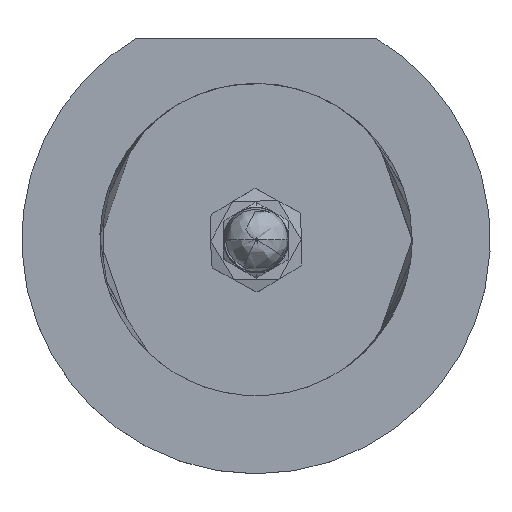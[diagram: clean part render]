
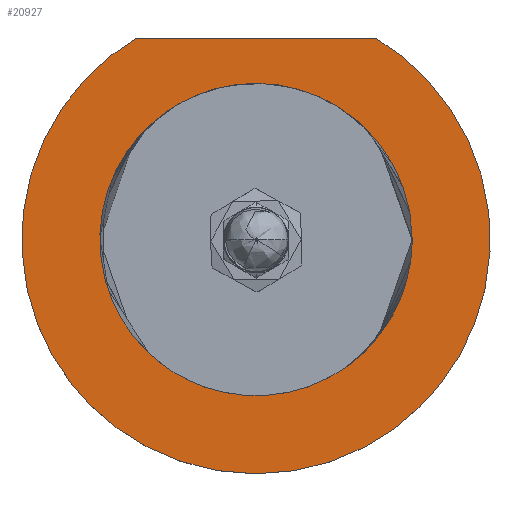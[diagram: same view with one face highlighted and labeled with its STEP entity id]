
A CAD part, top view. The second image highlights one B-rep face of the part: STEP entity #20927.
In plain terms, the highlighted free-form (B-spline) face has degree [1, 1] with [2, 2] control points.
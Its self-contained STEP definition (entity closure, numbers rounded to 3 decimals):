
#20372=CARTESIAN_POINT('',(14.56,24.5,0.));
#20373=VERTEX_POINT('',#20372);
#20380=CARTESIAN_POINT('',(-14.56,24.5,0.));
#20381=VERTEX_POINT('',#20380);
#20387=CARTESIAN_POINT('',(-14.56,24.5,0.));
#20388=CARTESIAN_POINT('',(14.56,24.5,0.));
#20389=B_SPLINE_CURVE_WITH_KNOTS('',1,(#20387,#20388),.POLYLINE_FORM.,.F.,.U.,(2,2),(0.096,0.904),.UNSPECIFIED.);
#20390=EDGE_CURVE('',#20381,#20373,#20389,.T.);
#20415=CARTESIAN_POINT('',(14.56,24.5,0.));
#20416=CARTESIAN_POINT('',(43.51,7.295,0.));
#20417=CARTESIAN_POINT('',(21.755,-18.411,0.));
#20418=CARTESIAN_POINT('',(0.,-44.117,0.));
#20419=CARTESIAN_POINT('',(-21.755,-18.411,0.));
#20420=CARTESIAN_POINT('',(-43.51,7.295,0.));
#20421=CARTESIAN_POINT('',(-14.56,24.5,0.));
#20422=(BOUNDED_CURVE()B_SPLINE_CURVE(2,(#20415,#20416,#20417,#20418,#20419,#20420,#20421),.CIRCULAR_ARC.,.F.,.U.)B_SPLINE_CURVE_WITH_KNOTS((3,2,2,3),(0.,0.333,0.667,1.),.UNSPECIFIED.)CURVE()GEOMETRIC_REPRESENTATION_ITEM()RATIONAL_B_SPLINE_CURVE((1.,0.646,1.,0.646,1.,0.646,1.))REPRESENTATION_ITEM(''));
#20423=EDGE_CURVE('',#20373,#20381,#20422,.T.);
#20445=CARTESIAN_POINT('',(19.,0.,0.));
#20446=VERTEX_POINT('',#20445);
#20447=CARTESIAN_POINT('',(19.,0.,0.));
#20448=CARTESIAN_POINT('',(19.,32.909,0.));
#20449=CARTESIAN_POINT('',(-9.5,16.454,0.));
#20450=CARTESIAN_POINT('',(-38.,0.,0.));
#20451=CARTESIAN_POINT('',(-9.5,-16.454,0.));
#20452=CARTESIAN_POINT('',(19.,-32.909,0.));
#20453=CARTESIAN_POINT('',(19.,0.,0.));
#20454=(BOUNDED_CURVE()B_SPLINE_CURVE(2,(#20447,#20448,#20449,#20450,#20451,#20452,#20453),.CIRCULAR_ARC.,.T.,.U.)B_SPLINE_CURVE_WITH_KNOTS((3,2,2,3),(0.,0.333,0.667,1.),.UNSPECIFIED.)CURVE()GEOMETRIC_REPRESENTATION_ITEM()RATIONAL_B_SPLINE_CURVE((1.,0.5,1.,0.5,1.,0.5,1.))REPRESENTATION_ITEM(''));
#20455=EDGE_CURVE('',#20446,#20446,#20454,.T.);
#20915=CARTESIAN_POINT('',(85.5,85.5,0.));
#20916=CARTESIAN_POINT('',(85.5,-85.5,0.));
#20917=CARTESIAN_POINT('',(-85.5,85.5,0.));
#20918=CARTESIAN_POINT('',(-85.5,-85.5,0.));
#20919=B_SPLINE_SURFACE_WITH_KNOTS('',1,1,((#20915,#20916),(#20917,#20918)),.PLANE_SURF.,.F.,.F.,.U.,(2,2),(2,2),(-1.,2.),(-1.,2.),.UNSPECIFIED.);
#20920=ORIENTED_EDGE('',*,*,#20390,.F.);
#20921=ORIENTED_EDGE('',*,*,#20423,.F.);
#20922=EDGE_LOOP('',(#20920,#20921));
#20923=FACE_OUTER_BOUND('',#20922,.T.);
#20924=ORIENTED_EDGE('',*,*,#20455,.F.);
#20925=EDGE_LOOP('',(#20924));
#20926=FACE_BOUND('',#20925,.T.);
#20927=ADVANCED_FACE('',(#20923,#20926),#20919,.T.);
